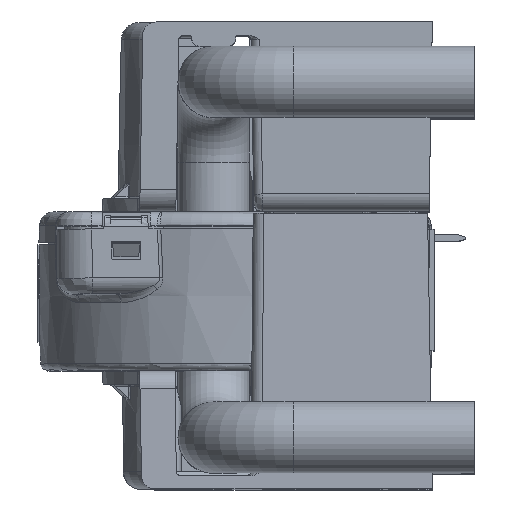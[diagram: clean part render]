
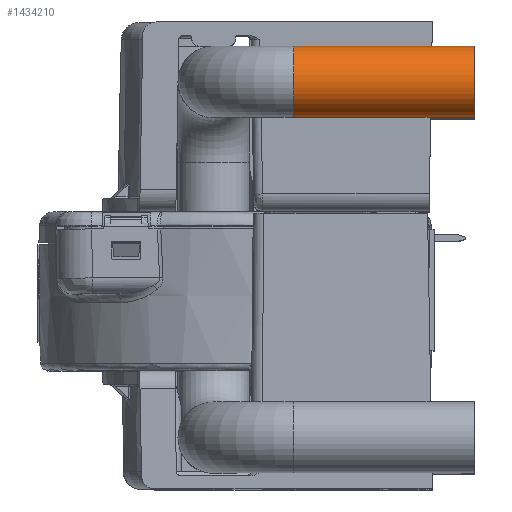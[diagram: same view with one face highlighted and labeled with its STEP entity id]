
A CAD part, top view. The second image highlights one B-rep face of the part: STEP entity #1434210.
In plain terms, the highlighted cylindrical face has radius 4 mm (diameter 8 mm), a partial arc.
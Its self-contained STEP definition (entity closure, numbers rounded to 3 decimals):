
#1411970=CARTESIAN_POINT('',(3.326,23.53,
60.904));
#1411980=VERTEX_POINT('',#1411970);
#1412010=CARTESIAN_POINT('',(3.326,19.53,
60.904));
#1412020=DIRECTION('',(-1.,0.,0.))
;
#1412030=DIRECTION('',(0.,-1.,0.));
#1412040=AXIS2_PLACEMENT_3D('',#1412010,#1412020,#1412030);
#1412050=CIRCLE('',#1412040,4.);
#1412060=CARTESIAN_POINT('',(3.326,15.53,
60.904));
#1412070=VERTEX_POINT('',#1412060);
#1412080=EDGE_CURVE('',#1412070,#1411980,#1412050,.T.);
#1412330=CARTESIAN_POINT('',(-2.181,23.53,
60.904));
#1412340=DIRECTION('',(-1.,0.,0.))
;
#1412350=VECTOR('',#1412340,1.);
#1412360=LINE('',#1412330,#1412350);
#1412370=CARTESIAN_POINT('',(23.626,23.53,
60.904));
#1412380=VERTEX_POINT('',#1412370);
#1412390=EDGE_CURVE('',#1412380,#1411980,#1412360,.T.);
#1412430=CARTESIAN_POINT('',(-2.181,15.53,
60.904));
#1412440=DIRECTION('',(-1.,0.,0.))
;
#1412450=VECTOR('',#1412440,1.);
#1412460=LINE('',#1412430,#1412450);
#1412470=CARTESIAN_POINT('',(23.626,15.53,
60.904));
#1412480=VERTEX_POINT('',#1412470);
#1412490=EDGE_CURVE('',#1412480,#1412070,#1412460,.T.);
#1412510=CARTESIAN_POINT('',(23.626,19.53,
60.904));
#1412520=DIRECTION('',(-1.,0.,0.))
;
#1412530=DIRECTION('',(0.,-1.,0.));
#1412540=AXIS2_PLACEMENT_3D('',#1412510,#1412520,#1412530);
#1412550=CIRCLE('',#1412540,4.);
#1412730=EDGE_CURVE('',#1412480,#1412380,#1412550,.T.);
#1434100=CARTESIAN_POINT('',(-2.181,19.53,
60.904));
#1434110=DIRECTION('',(-1.,0.,0.))
;
#1434120=DIRECTION('',(0.,-1.,0.));
#1434130=AXIS2_PLACEMENT_3D('',#1434100,#1434110,#1434120);
#1434140=CYLINDRICAL_SURFACE('',#1434130,4.);
#1434150=ORIENTED_EDGE('',*,*,#1412390,.T.);
#1434160=ORIENTED_EDGE('',*,*,#1412730,.T.);
#1434170=ORIENTED_EDGE('',*,*,#1412490,.F.);
#1434180=ORIENTED_EDGE('',*,*,#1412080,.F.);
#1434190=EDGE_LOOP('',(#1434180,#1434170,#1434160,#1434150));
#1434200=FACE_OUTER_BOUND('',#1434190,.T.);
#1434210=ADVANCED_FACE('',(#1434200),#1434140,.T.);
